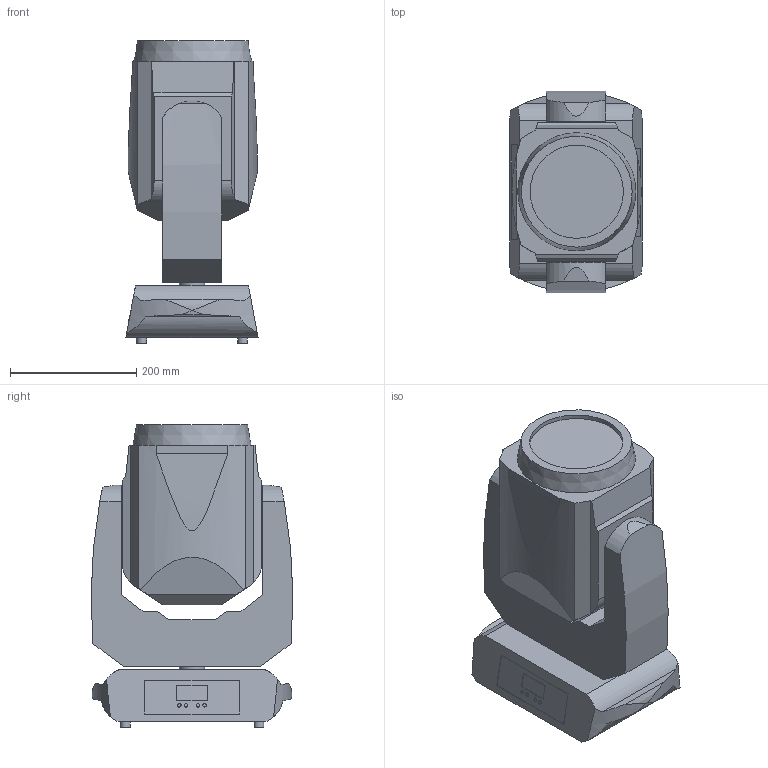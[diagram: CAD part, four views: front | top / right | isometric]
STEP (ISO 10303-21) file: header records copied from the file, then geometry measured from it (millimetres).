
FILE_DESCRIPTION(/* description */ ('Unknown'),/* implementation_level */ '2;1');
FILE_NAME(/* name */ '3D_MiniPointe',/* time_stamp */ '2020-04-06T10:43:43+02:00',/* author */ ('Ing.Rostislav HĂˇba'),/* organization */ ('ROBE lighting'),/* preprocessor_version */ 'ST-DEVELOPER v16.7',/* originating_system */ 'Solid Edge',/* authorisation */ 'Unknown');
FILE_SCHEMA (('AUTOMOTIVE_DESIGN {1 0 10303 214 3 1 1}'));
Length unit declared in the file: millimetre
Products named in the file (4): 3D_MiniPointe; Základna RMP; Rameno RMP; Hlava RMP
Assembly tree (3 placements, depth 2):
  3D_MiniPointe
    Základna RMP
    Rameno RMP
    Hlava RMP
Bounding box: 209.62 x 319.79 x 480 mm (x, y, z)
Volume: 18615842.4 mm3; surface area: 686564.2 mm2
Topology: 7 solids, 7 shells, 124 faces, 289 edges, 196 vertices
Faces by surface type: plane 85, cylinder 34, bspline 4, cone 1
Full cylindrical faces by diameter (mm): 10.2 x4, 15.105 x3, 16.099 x1, 22 x3, 40 x2, 147.8 x1
Entity records: 3821 total; most frequent: CARTESIAN_POINT 946, DIRECTION 574, ORIENTED_EDGE 520, EDGE_CURVE 260, AXIS2_PLACEMENT_3D 208, VERTEX_POINT 186, EDGE_LOOP 162, FACE_BOUND 162
